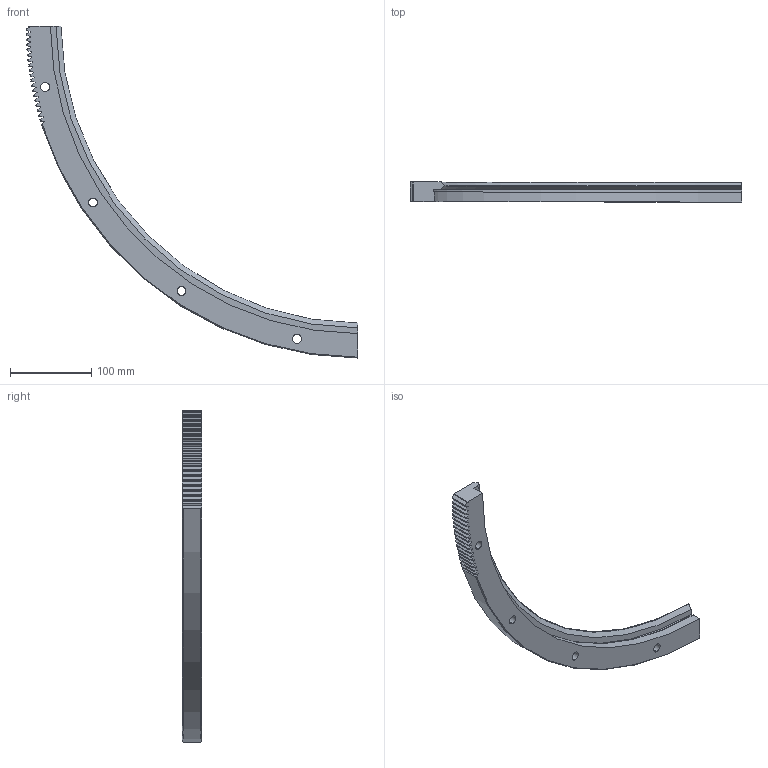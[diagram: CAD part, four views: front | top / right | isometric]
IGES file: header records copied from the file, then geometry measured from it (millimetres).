
Start section: 3D InterOp IGES (v. 2020 1.0.1), Spatial Corp. Copyright (c) 1999-2017.
Global section: file name: ril_820_r90_p.igs; native system: Spatial Corp.; preprocessor: 3D InterOp ACIS/IGES; author: TraceParts; organization: TraceParts S.A.; date: 20220624.063441; units: millimetre
Bounding box: 407.96 x 24 x 408 mm (x, y, z)
Surface area: 85803.8 mm2 (no closed solid volume)
Topology: 0 solids, 0 shells, 171 faces, 990 edges, 990 vertices
Faces by surface type: extrusion 108, revolution 63
